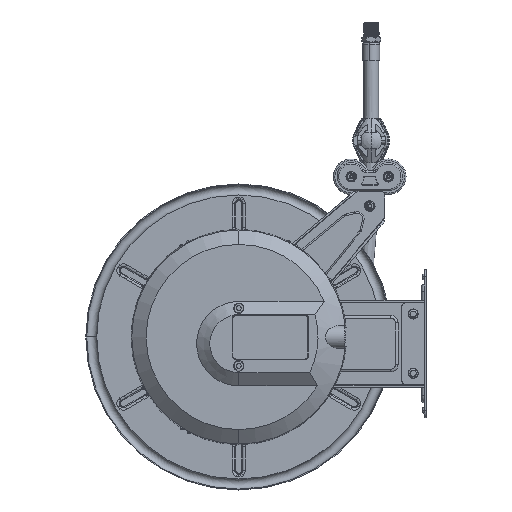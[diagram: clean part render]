
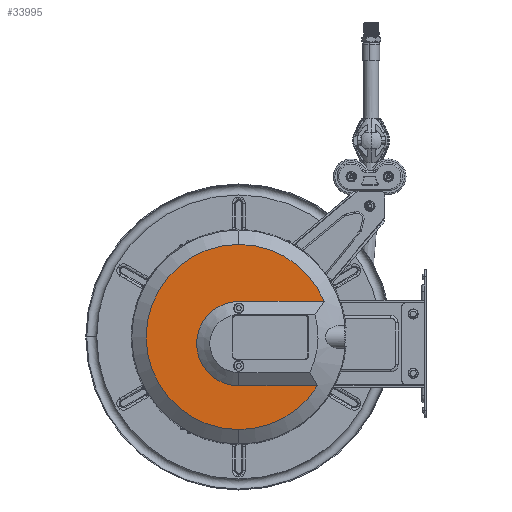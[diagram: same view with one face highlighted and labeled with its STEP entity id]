
A CAD part, left-side view. The second image highlights one B-rep face of the part: STEP entity #33995.
In plain terms, the highlighted planar face has unit normal (-1, 0, 0).
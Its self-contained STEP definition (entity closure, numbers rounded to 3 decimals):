
#222 = VERTEX_POINT ( 'NONE', #65916 ) ;
#507 = ORIENTED_EDGE ( 'NONE', *, *, #53847, .T. ) ;
#1628 = ORIENTED_EDGE ( 'NONE', *, *, #2539, .T. ) ;
#2539 = EDGE_CURVE ( 'NONE', #34977, #72071, #29121, .T. ) ;
#3280 = CARTESIAN_POINT ( 'NONE',  ( -123., 253., 0. ) ) ;
#3504 = CARTESIAN_POINT ( 'NONE',  ( -123., 146.865, -56.919 ) ) ;
#8872 = AXIS2_PLACEMENT_3D ( 'NONE', #75269, #33055, #82293 ) ;
#9091 = ORIENTED_EDGE ( 'NONE', *, *, #44541, .T. ) ;
#10331 = DIRECTION ( 'NONE',  ( 0., 0., 1. ) ) ;
#11302 = DIRECTION ( 'NONE',  ( -1., 0., 0. ) ) ;
#12182 = CIRCLE ( 'NONE', #43124, 124.94 ) ;
#14535 = DIRECTION ( 'NONE',  ( -1., 0., 0. ) ) ;
#16398 = ORIENTED_EDGE ( 'NONE', *, *, #84135, .T. ) ;
#16854 = EDGE_CURVE ( 'NONE', #222, #34977, #43645, .T. ) ;
#19919 = CIRCLE ( 'NONE', #8872, 124.94 ) ;
#20027 = CARTESIAN_POINT ( 'NONE',  ( -123., 137.615, 56.919 ) ) ;
#24622 = CARTESIAN_POINT ( 'NONE',  ( -123., 253., 9. ) ) ;
#26919 = VECTOR ( 'NONE', #83396, 1000. ) ;
#29121 = LINE ( 'NONE', #55189, #26919 ) ;
#29900 = VERTEX_POINT ( 'NONE', #64269 ) ;
#29951 = FACE_OUTER_BOUND ( 'NONE', #90272, .T. ) ;
#31719 = DIRECTION ( 'NONE',  ( 0., 0., 1. ) ) ;
#33055 = DIRECTION ( 'NONE',  ( -1., 0., 0. ) ) ;
#33525 = CIRCLE ( 'NONE', #82013, 56.919 ) ;
#33995 = ADVANCED_FACE ( 'NONE', ( #29951 ), #39048, .T. ) ;
#34977 = VERTEX_POINT ( 'NONE', #3504 ) ;
#37299 = ORIENTED_EDGE ( 'NONE', *, *, #16854, .T. ) ;
#38868 = LINE ( 'NONE', #73414, #74130 ) ;
#39048 = PLANE ( 'NONE',  #68820 ) ;
#41468 = AXIS2_PLACEMENT_3D ( 'NONE', #24622, #73952, #31719 ) ;
#43124 = AXIS2_PLACEMENT_3D ( 'NONE', #56825, #14535, #63861 ) ;
#43645 = CIRCLE ( 'NONE', #41468, 124.94 ) ;
#44541 = EDGE_CURVE ( 'NONE', #29900, #222, #19919, .T. ) ;
#50862 = EDGE_CURVE ( 'NONE', #60250, #29900, #12182, .T. ) ;
#52578 = DIRECTION ( 'NONE',  ( 1., 0., 0. ) ) ;
#53559 = CARTESIAN_POINT ( 'NONE',  ( -123., 253., 9. ) ) ;
#53847 = EDGE_CURVE ( 'NONE', #72071, #88940, #33525, .T. ) ;
#55189 = CARTESIAN_POINT ( 'NONE',  ( -123., 253., -56.919 ) ) ;
#56825 = CARTESIAN_POINT ( 'NONE',  ( -123., 253., 9. ) ) ;
#60036 = ORIENTED_EDGE ( 'NONE', *, *, #50862, .T. ) ;
#60250 = VERTEX_POINT ( 'NONE', #20027 ) ;
#60628 = DIRECTION ( 'NONE',  ( 0., 0., 1. ) ) ;
#63861 = DIRECTION ( 'NONE',  ( 0., 0., 1. ) ) ;
#64269 = CARTESIAN_POINT ( 'NONE',  ( -123., 253., 133.94 ) ) ;
#65916 = CARTESIAN_POINT ( 'NONE',  ( -123., 253., -115.94 ) ) ;
#68820 = AXIS2_PLACEMENT_3D ( 'NONE', #53559, #11302, #60628 ) ;
#72071 = VERTEX_POINT ( 'NONE', #82168 ) ;
#73414 = CARTESIAN_POINT ( 'NONE',  ( -123., 253., 56.919 ) ) ;
#73952 = DIRECTION ( 'NONE',  ( -1., 0., 0. ) ) ;
#74130 = VECTOR ( 'NONE', #87537, 1000. ) ;
#75269 = CARTESIAN_POINT ( 'NONE',  ( -123., 253., 9. ) ) ;
#82013 = AXIS2_PLACEMENT_3D ( 'NONE', #3280, #52578, #10331 ) ;
#82168 = CARTESIAN_POINT ( 'NONE',  ( -123., 253., -56.919 ) ) ;
#82293 = DIRECTION ( 'NONE',  ( 0., 0., 1. ) ) ;
#83396 = DIRECTION ( 'NONE',  ( 0., 1., 0. ) ) ;
#84135 = EDGE_CURVE ( 'NONE', #88940, #60250, #38868, .T. ) ;
#87537 = DIRECTION ( 'NONE',  ( 0., -1., 0. ) ) ;
#88940 = VERTEX_POINT ( 'NONE', #90288 ) ;
#90272 = EDGE_LOOP ( 'NONE', ( #60036, #9091, #37299, #1628, #507, #16398 ) ) ;
#90288 = CARTESIAN_POINT ( 'NONE',  ( -123., 253., 56.919 ) ) ;
